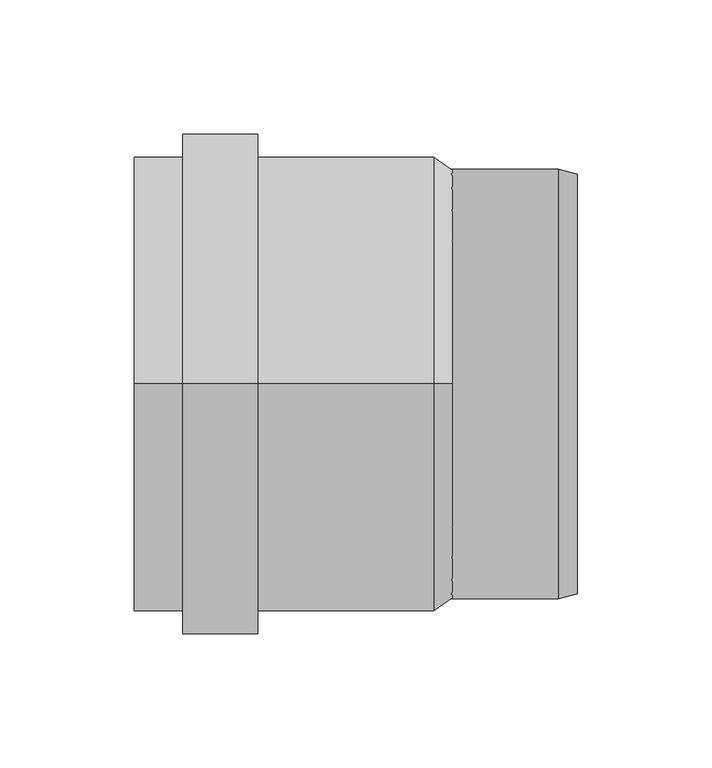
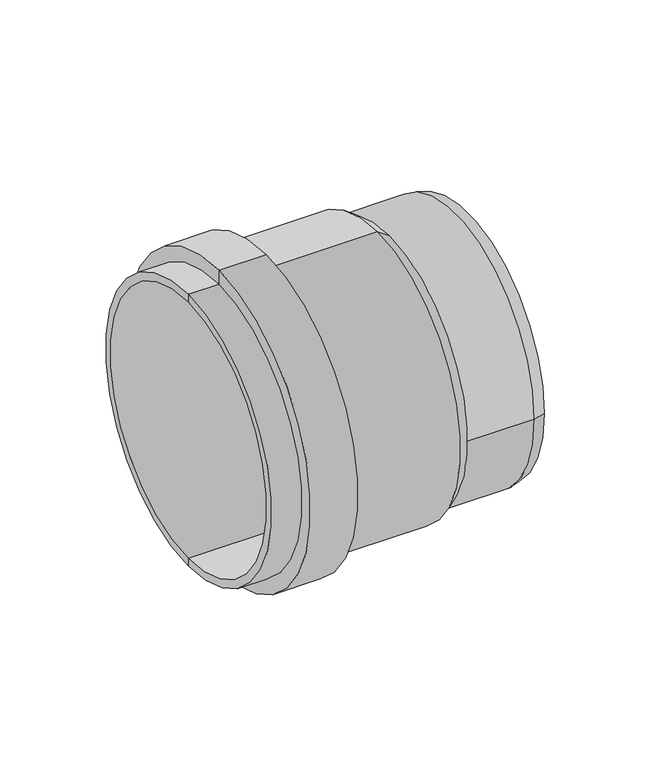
"""IFC4 building model written with IfcOpenShell, lengths in millimetres: pipe fitting geometry, OSMA_KG2000_PPKGBA : Připojení na beton."""

from ifc_helpers import new_model, si_unit, frame, origin, place, context, project, spatial, polyline, circle_curve, source, transform, mapped, element, save
from ifc_brep_helpers import plane_surface, cylinder_surface, revolved_surface, advanced_brep


def pipe_fitting_685188a1(model_context):
    return source(origin(), model_context, "Body", "AdvancedBrep", [
        advanced_brep(
        [(-3.5, 0.0, 80.0), (-3.5, 0.0, -80.0), (-115.0, 0.0, -80.0), (-115.0, 0.0, 80.0), (-69.0, 0.0, 84.9), (-69.0, 0.0, -84.9), (-3.5, 0.0, -84.9), (-3.5, 0.0, 84.9), (-69.0, 0.0, 93.5), (-69.0, 0.0, -93.5), (-97.0, 0.0, 93.5), (-97.0, 0.0, -93.5), (-97.0, 0.0, 84.9), (-97.0, 0.0, -84.9), (-115.0, 0.0, 84.9), (-115.0, 0.0, -84.9), (3.5, 0.0, 75.1), (3.5, 0.0, -75.1), (3.5, 0.0, 80.0), (3.5, 0.0, -80.0)],
        [
            (0, 1, circle_curve(frame((-3.5, 0.0, 0.0), z_axis=(1.0, 0.0, 0.0), x_axis=(0.0, 0.0, -1.0)), 80.0)),
            (1, 2),
            (2, 3, circle_curve(frame((-115.0, 0.0, 0.0), z_axis=(-1.0, 0.0, 0.0), x_axis=(0.0, 0.0, -1.0)), 80.0)),
            (3, 0),
            (1, 0, circle_curve(frame((-3.5, 0.0, 0.0), z_axis=(1.0, 0.0, 0.0), x_axis=(0.0, 0.0, -1.0)), 80.0)),
            (3, 2, circle_curve(frame((-115.0, 0.0, 0.0), z_axis=(-1.0, 0.0, 0.0), x_axis=(0.0, 0.0, -1.0)), 80.0)),
            (4, 5, circle_curve(frame((-69.0, 0.0, 0.0), z_axis=(1.0, 0.0, 0.0), x_axis=(0.0, 0.0, -1.0)), 84.9)),
            (5, 6),
            (6, 7, circle_curve(frame((-3.5, 0.0, 0.0), z_axis=(-1.0, 0.0, 0.0), x_axis=(0.0, 0.0, -1.0)), 84.9)),
            (7, 4),
            (5, 4, circle_curve(frame((-69.0, 0.0, 0.0), z_axis=(1.0, 0.0, 0.0), x_axis=(0.0, 0.0, -1.0)), 84.9)),
            (7, 6, circle_curve(frame((-3.5, 0.0, 0.0), z_axis=(-1.0, 0.0, 0.0), x_axis=(0.0, 0.0, -1.0)), 84.9)),
            (8, 9, circle_curve(frame((-69.0, 0.0, 0.0), z_axis=(1.0, 0.0, 0.0), x_axis=(0.0, 0.0, -1.0)), 93.5)),
            (9, 5),
            (4, 8),
            (9, 8, circle_curve(frame((-69.0, 0.0, 0.0), z_axis=(1.0, 0.0, 0.0), x_axis=(0.0, 0.0, -1.0)), 93.5)),
            (10, 11, circle_curve(frame((-97.0, 0.0, 0.0), z_axis=(1.0, 0.0, 0.0), x_axis=(0.0, 0.0, -1.0)), 93.5)),
            (11, 9),
            (8, 10),
            (11, 10, circle_curve(frame((-97.0, 0.0, 0.0), z_axis=(1.0, 0.0, 0.0), x_axis=(0.0, 0.0, -1.0)), 93.5)),
            (12, 13, circle_curve(frame((-97.0, 0.0, 0.0), z_axis=(1.0, 0.0, 0.0), x_axis=(0.0, 0.0, -1.0)), 84.9)),
            (13, 11),
            (10, 12),
            (13, 12, circle_curve(frame((-97.0, 0.0, 0.0), z_axis=(1.0, 0.0, 0.0), x_axis=(0.0, 0.0, -1.0)), 84.9)),
            (14, 15, circle_curve(frame((-115.0, 0.0, 0.0), z_axis=(1.0, 0.0, 0.0), x_axis=(0.0, 0.0, -1.0)), 84.9)),
            (15, 13),
            (12, 14),
            (15, 14, circle_curve(frame((-115.0, 0.0, 0.0), z_axis=(1.0, 0.0, 0.0), x_axis=(0.0, 0.0, -1.0)), 84.9)),
            (2, 15),
            (14, 3),
            (16, 17, circle_curve(frame((3.5, 0.0, 0.0), z_axis=(1.0, 0.0, 0.0), x_axis=(0.0, 0.0, -1.0)), 75.1)),
            (17, 1),
            (0, 16),
            (17, 16, circle_curve(frame((3.5, 0.0, 0.0), z_axis=(1.0, 0.0, 0.0), x_axis=(0.0, 0.0, -1.0)), 75.1)),
            (18, 19, circle_curve(frame((3.5, 0.0, 0.0), z_axis=(1.0, 0.0, 0.0), x_axis=(0.0, 0.0, -1.0)), 80.0)),
            (19, 17),
            (16, 18),
            (19, 18, circle_curve(frame((3.5, 0.0, 0.0), z_axis=(1.0, 0.0, 0.0), x_axis=(0.0, 0.0, -1.0)), 80.0)),
            (6, 19),
            (18, 7),
        ],
        [
            revolved_surface(polyline([(-115.0, 0.0, -80.0), (-3.5, 0.0, -80.0)]), (-2784.4742198, 0.0, 0.0), (-1.0, 0.0, 0.0)),
            cylinder_surface(frame((-2784.4742198, 0.0, 0.0), z_axis=(-1.0, 0.0, 0.0), x_axis=(0.0, 0.0, -1.0)), 84.9),
            plane_surface(frame((-69.0, 0.0, 0.0), z_axis=(1.0, 0.0, 0.0), x_axis=(0.0, 0.0, -1.0))),
            cylinder_surface(frame((-2784.4742198, 0.0, 0.0), z_axis=(-1.0, 0.0, 0.0), x_axis=(0.0, 0.0, -1.0)), 93.5),
            plane_surface(frame((-97.0, 0.0, 0.0), z_axis=(-1.0, 0.0, 0.0), x_axis=(0.0, 0.0, -1.0))),
            plane_surface(frame((-115.0, 0.0, 0.0), z_axis=(-1.0, 0.0, 0.0), x_axis=(0.0, 0.0, -1.0))),
            revolved_surface(polyline([(-3.5, 0.0, -80.0), (3.5, 0.0, -75.1)]), (-2784.4742198, 0.0, 0.0), (-1.0, 0.0, 0.0)),
            plane_surface(frame((3.5, 0.0, 0.0), z_axis=(1.0, 0.0, 0.0), x_axis=(0.0, 0.0, -1.0))),
            revolved_surface(polyline([(3.5, 0.0, -80.0), (-3.5, 0.0, -84.9)]), (-2784.4742198, 0.0, 0.0), (-1.0, 0.0, 0.0)),
        ],
        [
            (0, [[1, 2, 3, 4]]),
            (0, [[5, -4, 6, -2]]),
            (1, [[7, 8, 9, 10]]),
            (1, [[11, -10, 12, -8]]),
            (2, [[13, 14, -7, 15]]),
            (2, [[16, -15, -11, -14]]),
            (3, [[17, 18, -13, 19]]),
            (3, [[20, -19, -16, -18]]),
            (4, [[21, 22, -17, 23]]),
            (4, [[24, -23, -20, -22]]),
            (1, [[25, 26, -21, 27]]),
            (1, [[28, -27, -24, -26]]),
            (5, [[-3, 29, -25, 30]]),
            (5, [[-6, -30, -28, -29]]),
            (6, [[31, 32, -1, 33]]),
            (6, [[34, -33, -5, -32]]),
            (7, [[35, 36, -31, 37]]),
            (7, [[38, -37, -34, -36]]),
            (8, [[-9, 39, -35, 40]]),
            (8, [[-12, -40, -38, -39]]),
        ],
    ),
        advanced_brep(
        [(50.0, -78.1243557, 0.0), (50.0, 78.1243557, 0.0), (50.0, 0.0, 0.0), (43.0, -80.0, 0.0), (43.0, 80.0, 0.0), (0.0, -80.0, 0.0), (0.0, 80.0, 0.0), (0.0, 0.0, 0.0)],
        [
            (0, 1, circle_curve(frame((50.0, 0.0, 0.0), z_axis=(1.0, 0.0, 0.0), x_axis=(0.0, 1.0, 0.0)), 78.1243557)),
            (1, 2),
            (2, 0),
            (1, 0, circle_curve(frame((50.0, 0.0, 0.0), z_axis=(1.0, 0.0, 0.0), x_axis=(0.0, 1.0, 0.0)), 78.1243557)),
            (3, 4, circle_curve(frame((43.0, 0.0, 0.0), z_axis=(1.0, 0.0, 0.0), x_axis=(0.0, 1.0, 0.0)), 80.0)),
            (4, 1),
            (0, 3),
            (4, 3, circle_curve(frame((43.0, 0.0, 0.0), z_axis=(1.0, 0.0, 0.0), x_axis=(0.0, 1.0, 0.0)), 80.0)),
            (5, 6, circle_curve(frame((0.0, 0.0, 0.0), z_axis=(1.0, 0.0, 0.0), x_axis=(0.0, 1.0, 0.0)), 80.0)),
            (6, 4),
            (3, 5),
            (6, 5, circle_curve(frame((0.0, 0.0, 0.0), z_axis=(1.0, 0.0, 0.0), x_axis=(0.0, 1.0, 0.0)), 80.0)),
            (7, 6),
            (5, 7),
        ],
        [
            plane_surface(frame((50.0, 0.0, 0.0), z_axis=(1.0, 0.0, 0.0), x_axis=(0.0, 1.0, 0.0))),
            revolved_surface(polyline([(50.0, 78.1243557, 0.0), (43.0, 80.0, 0.0)]), (2000.0, 0.0, 0.0), (-1.0, 0.0, 0.0)),
            cylinder_surface(frame((2000.0, 0.0, 0.0), z_axis=(-1.0, 0.0, 0.0), x_axis=(0.0, 1.0, 0.0)), 80.0),
            plane_surface(frame((0.0, 0.0, 0.0), z_axis=(-1.0, 0.0, 0.0), x_axis=(0.0, 1.0, 0.0))),
        ],
        [
            (0, [[1, 2, 3]]),
            (0, [[4, -3, -2]]),
            (1, [[5, 6, -1, 7]]),
            (1, [[8, -7, -4, -6]]),
            (2, [[9, 10, -5, 11]]),
            (2, [[12, -11, -8, -10]]),
            (3, [[13, -9, 14]]),
            (3, [[-14, -12, -13]]),
        ],
    ),
    ])


if __name__ == "__main__":
    model = new_model("IFC4")
    model_context = context("Model", 3, world=origin())
    ifc_project = project(units=[si_unit("LENGTHUNIT", "METRE", prefix="MILLI")], contexts=[model_context])
    site = spatial("IfcSite", under=ifc_project)
    building = spatial("IfcBuilding", under=site)
    placement = place(None, origin())
    pipe_fitting_shape = pipe_fitting_685188a1(model_context)
    element("IfcPipeFitting", 1, ObjectType="OSMA_KG2000_PPKGBA : Připojení na beton", at=placement, inside=building, context=model_context, shape_type="MappedRepresentation", body=[
        mapped(pipe_fitting_shape, transform((0.0, 0.0, 0.0), x_axis=(1.0, 0.0, 0.0), y_axis=(0.0, 1.0, 0.0), z_axis=(0.0, 0.0, 1.0))),
    ])
    save(model, "model.ifc")
